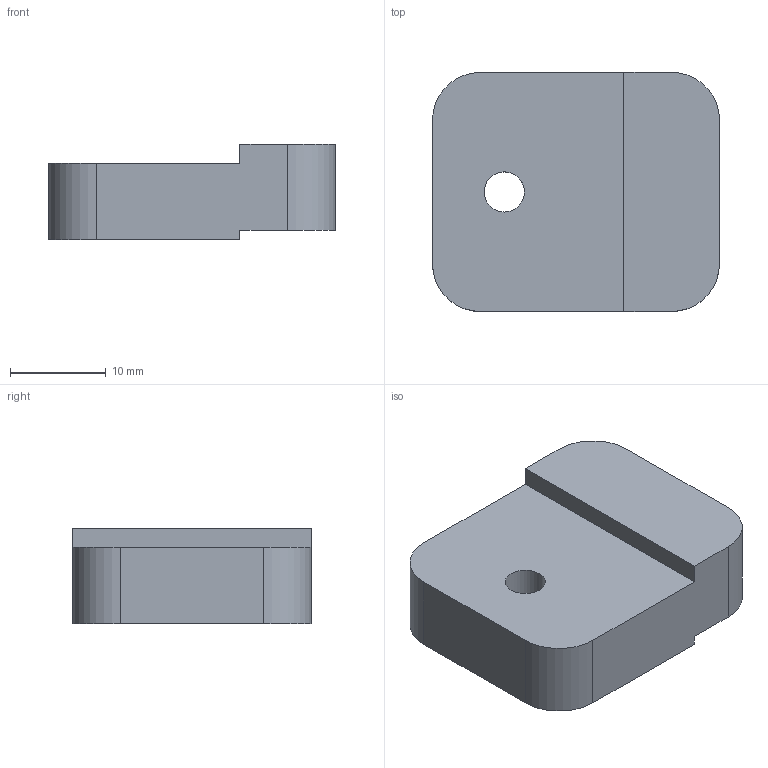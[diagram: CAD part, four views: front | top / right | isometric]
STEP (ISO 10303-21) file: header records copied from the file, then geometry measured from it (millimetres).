
FILE_DESCRIPTION (( 'STEP AP214' ), '1' );
FILE_NAME ('SL04001.step', '2024-12-03T16:31:11', ( '' ), ( '' ), 'SwSTEP 2.0', 'SolidWorks 2023', '' );
FILE_SCHEMA (( 'AUTOMOTIVE_DESIGN' ));
Length unit declared in the file: millimetre
Products named in the file (1): SL04001
Bounding box: 30 x 25 x 10 mm (x, y, z)
Volume: 5956.8 mm3; surface area: 2462 mm2
Topology: 1 solids, 1 shells, 15 faces, 39 edges, 26 vertices
Faces by surface type: plane 10, cylinder 5
Full cylindrical faces by diameter (mm): 4.2 x1
Entity records: 485 total; most frequent: CARTESIAN_POINT 80, DIRECTION 80, ORIENTED_EDGE 76, EDGE_CURVE 38, VECTOR 28, LINE 28, AXIS2_PLACEMENT_3D 26, VERTEX_POINT 26
